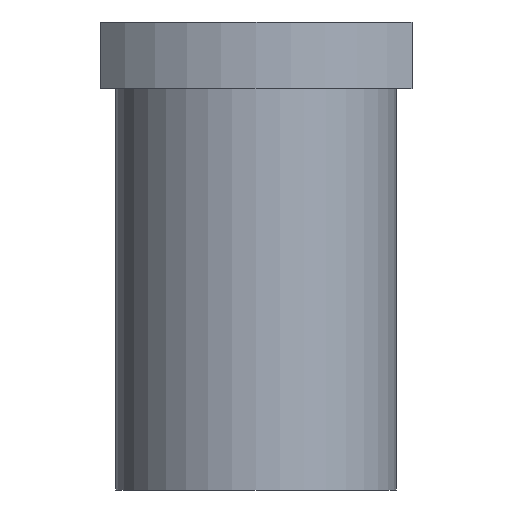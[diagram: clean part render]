
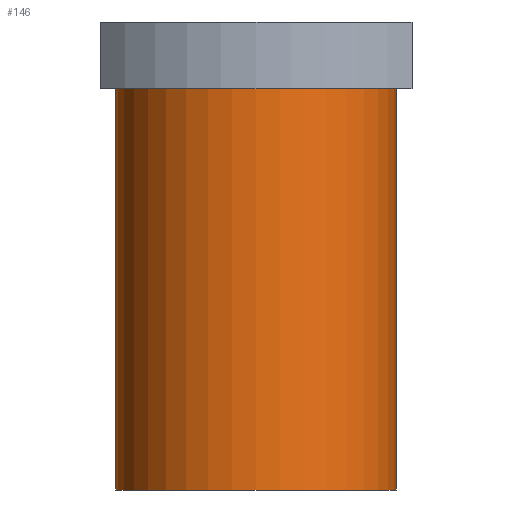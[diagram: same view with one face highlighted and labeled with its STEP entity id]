
A CAD part, front view. The second image highlights one B-rep face of the part: STEP entity #146.
In plain terms, the highlighted cylindrical face has radius 31.5 mm (diameter 63 mm), a partial arc.
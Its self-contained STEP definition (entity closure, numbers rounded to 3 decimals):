
#146=ADVANCED_FACE('',(#308),#309,.T.);
#308=FACE_OUTER_BOUND('',#463,.T.);
#309=CYLINDRICAL_SURFACE('',#464,31.5);
#463=EDGE_LOOP('',(#831,#832,#833,#834));
#464=AXIS2_PLACEMENT_3D('',#835,#836,#837);
#831=ORIENTED_EDGE('',*,*,#847,.T.);
#832=ORIENTED_EDGE('',*,*,#990,.F.);
#833=ORIENTED_EDGE('',*,*,#849,.T.);
#834=ORIENTED_EDGE('',*,*,#987,.T.);
#835=CARTESIAN_POINT('',(0.,0.0,-52.5));
#836=DIRECTION('',(0.,0.0,-1.0));
#837=DIRECTION('',(-1.0,0.0,0.));
#847=EDGE_CURVE('',#993,#994,#995,.T.);
#849=EDGE_CURVE('',#998,#996,#999,.T.);
#987=EDGE_CURVE('',#996,#993,#1199,.T.);
#990=EDGE_CURVE('',#998,#994,#1202,.T.);
#993=VERTEX_POINT('',#1205);
#994=VERTEX_POINT('',#1206);
#995=LINE('',#1207,#1208);
#996=VERTEX_POINT('',#1209);
#998=VERTEX_POINT('',#1211);
#999=LINE('',#1212,#1213);
#1199=CIRCLE('',#1585,31.5);
#1202=CIRCLE('',#1588,31.5);
#1205=CARTESIAN_POINT('',(-31.5,0.,-15.0));
#1206=CARTESIAN_POINT('',(-31.5,0.0,-105.0));
#1207=CARTESIAN_POINT('',(-31.5,0.,-52.5));
#1208=VECTOR('',#1590,1.0);
#1209=CARTESIAN_POINT('',(31.5,0.,-15.0));
#1211=CARTESIAN_POINT('',(31.5,0.,-105.0));
#1212=CARTESIAN_POINT('',(31.5,0.,-52.5));
#1213=VECTOR('',#1594,1.0);
#1585=AXIS2_PLACEMENT_3D('',#1800,#1801,#1802);
#1588=AXIS2_PLACEMENT_3D('',#1803,#1804,#1805);
#1590=DIRECTION('',(0.,0.0,-1.0));
#1594=DIRECTION('',(0.,-0.0,1.0));
#1800=CARTESIAN_POINT('',(0.,0.0,-15.0));
#1801=DIRECTION('',(0.,0.0,-1.0));
#1802=DIRECTION('',(-1.0,0.0,0.));
#1803=CARTESIAN_POINT('',(0.,0.0,-105.0));
#1804=DIRECTION('',(0.,0.0,-1.0));
#1805=DIRECTION('',(-1.0,0.0,0.));
